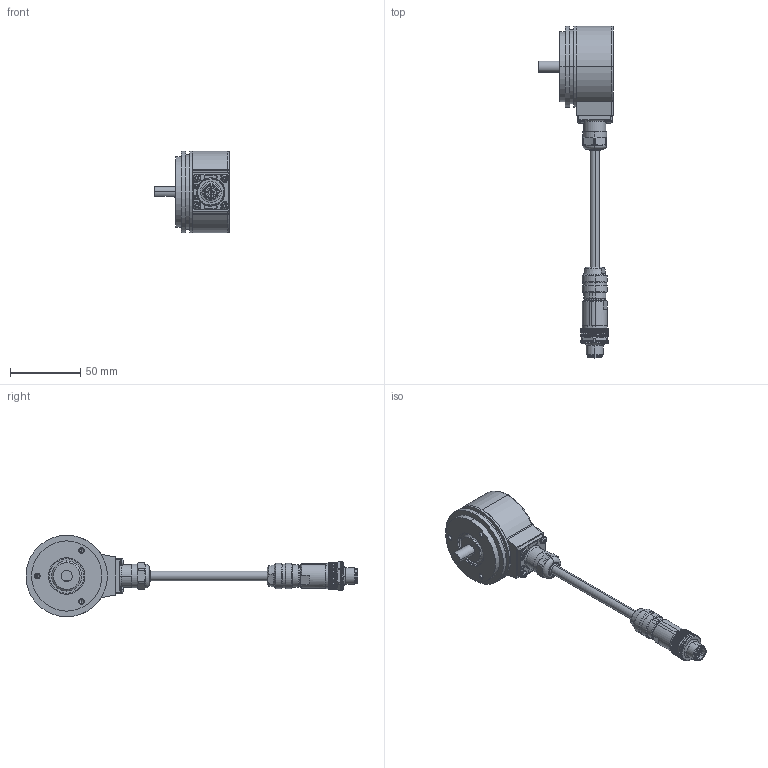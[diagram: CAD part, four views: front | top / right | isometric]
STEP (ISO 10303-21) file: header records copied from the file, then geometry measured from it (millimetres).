
FILE_DESCRIPTION (( 'STEP AP203' ), '1' );
FILE_NAME ('K58I.OXX.XXXXX.XS1S508.6XR13.XXXX.step', '2025-12-08T16:36:01', ( '' ), ( '' ), 'SwSTEP 2.0', 'SolidWorks 2021', '' );
FILE_SCHEMA (( 'CONFIG_CONTROL_DESIGN' ));
Length unit declared in the file: millimetre
Products named in the file (1): K58I.OXX.XXXXX.XS1S508.6XR13.XXXX
Bounding box: 53.19 x 236.49 x 58 mm (x, y, z)
Volume: 142407.1 mm3; surface area: 41965.3 mm2
Topology: 21 solids, 21 shells, 1470 faces, 3576 edges, 2182 vertices
Faces by surface type: plane 532, cylinder 524, cone 300, bspline 60, torus 38, sphere 16
Entity records: 46103 total; most frequent: CARTESIAN_POINT 12579, ORIENTED_EDGE 7116, DIRECTION 6918, EDGE_CURVE 3558, AXIS2_PLACEMENT_3D 2779, VERTEX_POINT 2180, EDGE_LOOP 1542, ADVANCED_FACE 1470
